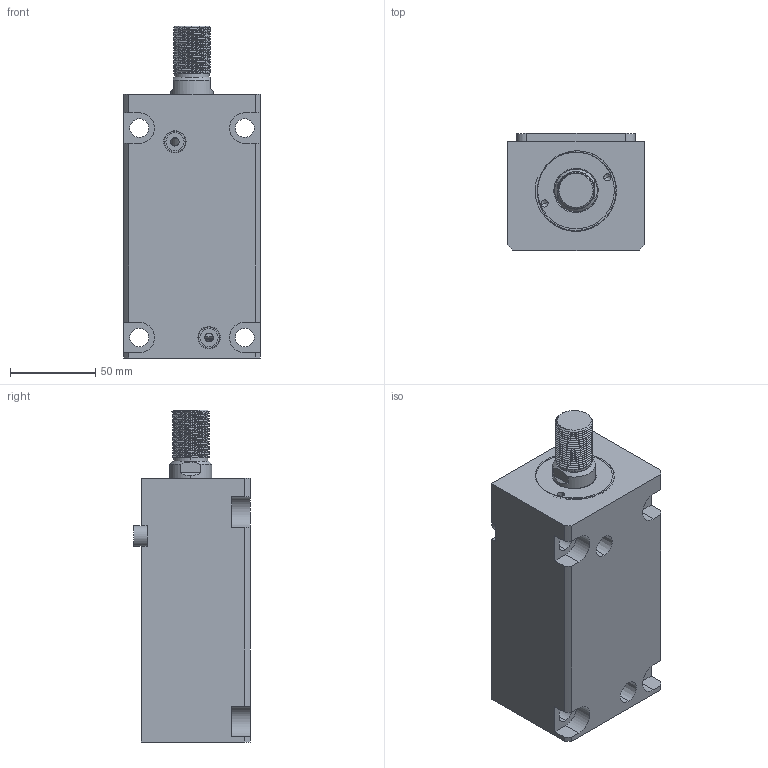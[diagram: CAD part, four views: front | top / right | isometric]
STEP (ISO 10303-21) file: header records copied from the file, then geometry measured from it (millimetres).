
FILE_DESCRIPTION (( 'STEP AP214' ), '1' );
FILE_NAME ('chtb-la40x100w_asm.STEP', '2018-06-04T00:56:17', ( 'Windows' ), ( 'Microsoft' ), 'SwSTEP 2.0', 'SolidWorks 2015', '' );
FILE_SCHEMA (( 'AUTOMOTIVE_DESIGN' ));
Length unit declared in the file: millimetre
Products named in the file (5): CHTB-SD40QG; CHTB-LA40PJ; CHTB-SD40X100WHSG; CHTB-LA40X100NBT; chtb-la40x100w_asm
Assembly tree (4 placements, depth 2):
  chtb-la40x100w_asm
    CHTB-LA40X100NBT
    CHTB-SD40X100WHSG
    CHTB-LA40PJ
    CHTB-SD40QG
Bounding box: 80 x 68.5 x 195 mm (x, y, z)
Volume: 693674.8 mm3; surface area: 116866.1 mm2
Topology: 4 solids, 5 shells, 205 faces, 559 edges, 373 vertices
Faces by surface type: cylinder 111, plane 52, bspline 16, cone 14, torus 12
Entity records: 13775 total; most frequent: CARTESIAN_POINT 8706, ORIENTED_EDGE 1106, DIRECTION 926, EDGE_CURVE 553, VERTEX_POINT 373, AXIS2_PLACEMENT_3D 363, EDGE_LOOP 234, FACE_OUTER_BOUND 205
